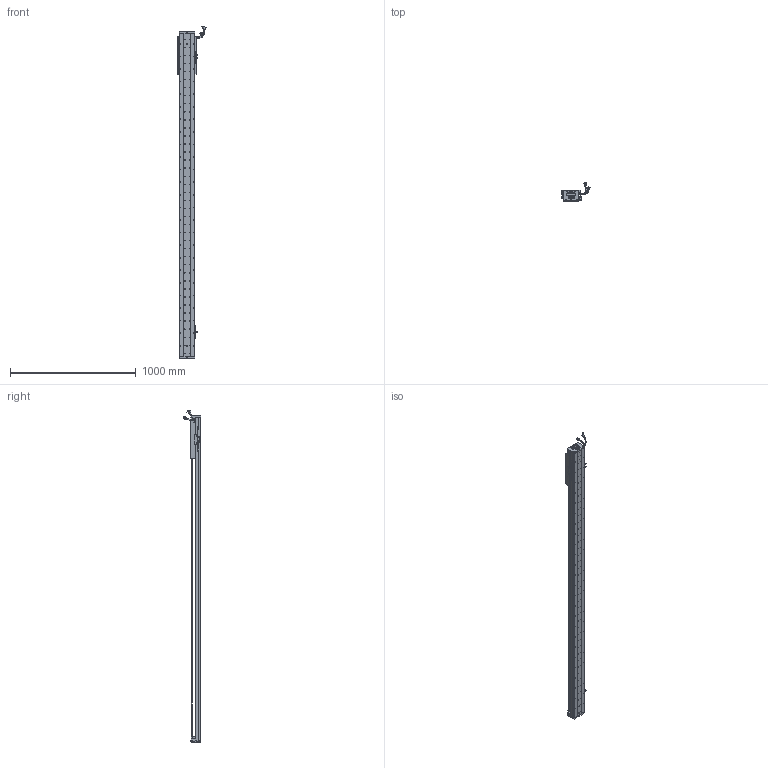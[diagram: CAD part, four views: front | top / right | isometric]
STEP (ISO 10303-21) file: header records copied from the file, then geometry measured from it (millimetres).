
FILE_DESCRIPTION (( 'STEP AP203' ), '1' );
FILE_NAME ('Z4-RY120D-1-L500-B-K.SLDASM_2200.step', '2021-05-17T06:09:44', ( '盈信电脑' ), ( '东莞市道滘镇水果街19号' ), 'SwSTEP 2.0', 'SolidWorks 2016', '' );
FILE_SCHEMA (( 'CONFIG_CONTROL_DESIGN' ));
Length unit declared in the file: millimetre
Products named in the file (37): 榋妏寠巭燃_暯_M2_2; 120-Z-臏賑輸盄裔(21遴); 672嫖萇羲壽假蚾釱; 140雄赽晤鎢ん堤盄; PBU_SHEET; COVER; HARNESS; PSLH080_PSLF2; Z4-RY120D-1-L500-B-K.SLDASM_2200; SHIELDPLATE; SEAL; RY100FB-遵嫖萇覜茼え; HARNESS-Part-1; Z-RY120D詩湍狟揤裔; 080黍杅芛假蚾釱21遴; Z-RY120D詩湍奻揤裔; HOLDER0; SCREW-M1.6-3; 覜茼ん672; SCREW-M1.6; SEAL-Part-1; Z4-RY120-L500詩湍100mm遵_2200; Z-120詩湍傷裔啣; SCALE-Part-1; SCALE; SCREW-M1.6-1; SCALE-Part-2; 140蚥薯蝶輸; LABEL-Part-1; COVER-Part-1; Z4-RY120-500-倰第菁釱_2200; SCREW-M1.7-1; Z4-RY120铝滑块（21款）; LABEL; SCREW-M1.7; HARNESS-Part-2; SCREW-M1.6-2
Assembly tree (43 placements, depth 4):
  Z4-RY120D-1-L500-B-K.SLDASM_2200
    Z4-RY120-500-倰第菁釱_2200
    覜茼ん672  x3
    672嫖萇羲壽假蚾釱  x2
    Z4-RY120铝滑块（21款）
    PSLH080_PSLF2
      SCALE
        SCALE-Part-1
        SCALE-Part-2
      HARNESS
        HARNESS-Part-1
        HARNESS-Part-2
      LABEL
        LABEL-Part-1
      COVER
        COVER-Part-1
      SEAL
        SEAL-Part-1
      榋妏寠巭燃_暯_M2_2
      SHIELDPLATE
      SCREW-M1.7
      SCREW-M1.7-1
      PBU_SHEET
      SCREW-M1.6
      SCREW-M1.6-1
      SCREW-M1.6-2
      SCREW-M1.6-3
      HOLDER0
    080黍杅芛假蚾釱21遴
    120-Z-臏賑輸盄裔(21遴)
    140雄赽晤鎢ん堤盄
    140蚥薯蝶輸  x2
    RY100FB-遵嫖萇覜茼え
    Z-120詩湍傷裔啣  x2
    Z-RY120D詩湍奻揤裔  x2
    Z-RY120D詩湍狟揤裔  x2
    Z4-RY120-L500詩湍100mm遵_2200
Bounding box: 222.83 x 140.94 x 2638.99 mm (x, y, z)
Volume: 6384504.9 mm3; surface area: 2196160.3 mm2
Topology: 38 solids, 38 shells, 3657 faces, 10388 edges, 6552 vertices
Faces by surface type: cylinder 1912, plane 1241, cone 382, torus 69, bspline 53
Entity records: 122117 total; most frequent: CARTESIAN_POINT 37094, ORIENTED_EDGE 17536, DIRECTION 16162, EDGE_CURVE 8768, AXIS2_PLACEMENT_3D 5982, VERTEX_POINT 5672, VECTOR 4198, LINE 4198
